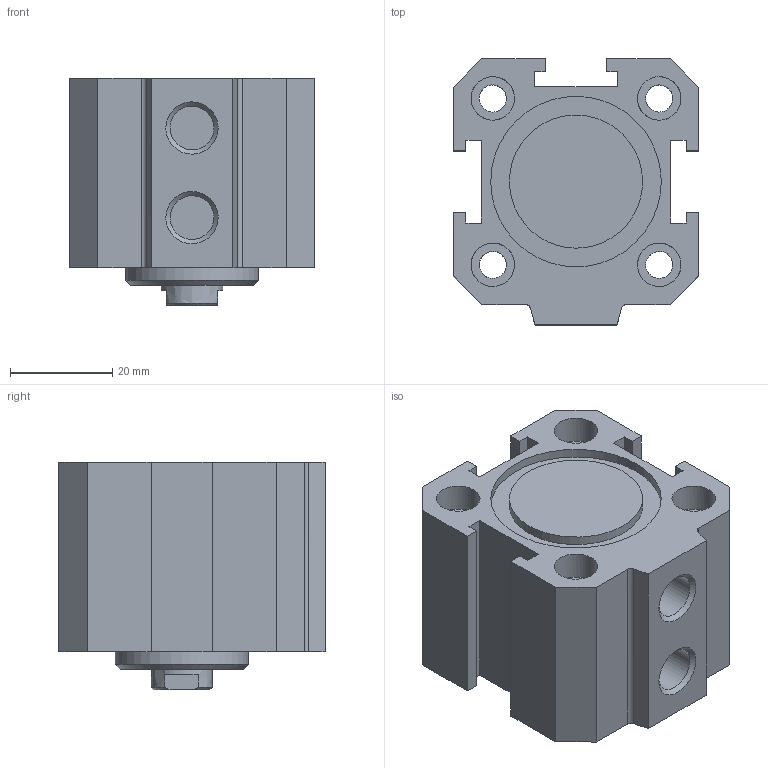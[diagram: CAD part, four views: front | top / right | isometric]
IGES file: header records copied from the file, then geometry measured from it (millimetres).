
Global section: file name: 1511_32_0000; native system: Autodesk Inventor 2014; preprocessor: unknown; author: A. Manieri; date: 20160824.113338; units: millimetre
Bounding box: 48 x 52 x 44.5 mm (x, y, z)
Volume: 71821.5 mm3; surface area: 24256.9 mm2
Topology: 2 solids, 2 shells, 93 faces, 237 edges, 166 vertices
Faces by surface type: bspline 93
